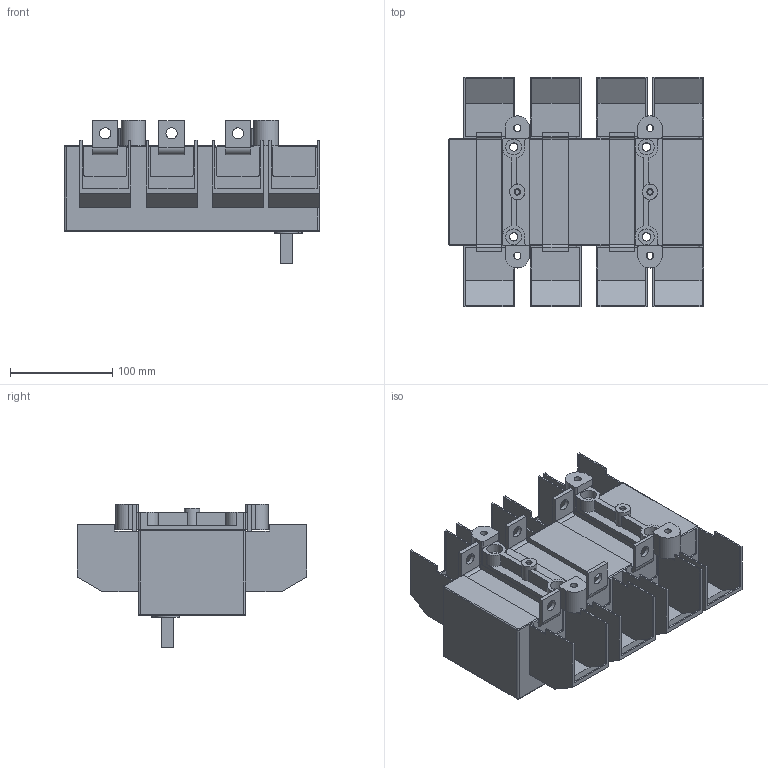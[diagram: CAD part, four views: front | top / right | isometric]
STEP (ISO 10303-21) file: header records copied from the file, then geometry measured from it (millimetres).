
FILE_DESCRIPTION(/* description */ (''),/* implementation_level */ '2;1');
FILE_NAME(/* name */ 'RA400 P3 C z oslona zaciskow.stp',/* time_stamp */ '2021-08-18T14:30:32+02:00',/* author */ (''),/* organization */ (''),/* preprocessor_version */ 'ST-DEVELOPER v18.1',/* originating_system */ 'SIEMENS PLM Software NX 1965',/* authorisation */ '');
FILE_SCHEMA (('AUTOMOTIVE_DESIGN { 1 0 10303 214 3 1 1 1 }'));
Length unit declared in the file: millimetre
Products named in the file (1): RA400 P3 C z oslona zaciskow_stp
Bounding box: 250 x 225 x 141 mm (x, y, z)
Volume: 2394853.3 mm3; surface area: 329361.8 mm2
Topology: 1 solids, 1 shells, 420 faces, 1160 edges, 762 vertices
Faces by surface type: plane 300, cylinder 112, torus 5, bspline 3
Full cylindrical faces by diameter (mm): 4.8 x2, 6.2 x2, 7 x4, 8.2 x4, 11 x6, 14 x4, 15 x2, 15.5 x4
Entity records: 13257 total; most frequent: CARTESIAN_POINT 2374, ORIENTED_EDGE 2256, DIRECTION 2212, EDGE_CURVE 1128, LINE 876, VECTOR 876, VERTEX_POINT 758, AXIS2_PLACEMENT_3D 668
